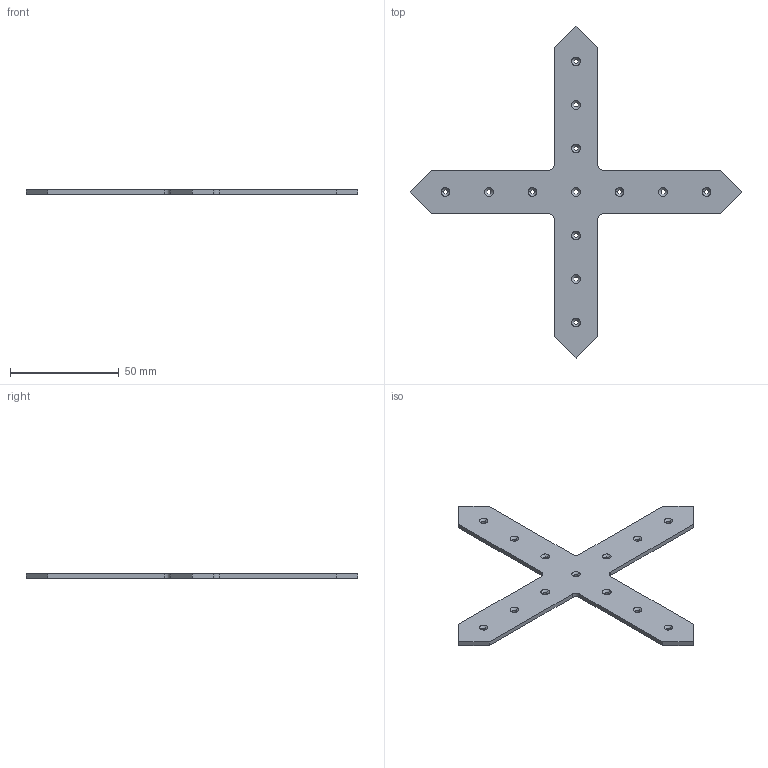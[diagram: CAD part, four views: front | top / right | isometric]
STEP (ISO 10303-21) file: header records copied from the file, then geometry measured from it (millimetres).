
FILE_DESCRIPTION (( 'STEP AP214' ), '1' );
FILE_NAME ('SC2.STEP', '2016-02-27T09:36:09', ( '' ), ( '' ), 'SwSTEP 2.0', 'SolidWorks 2012', '' );
FILE_SCHEMA (( 'AUTOMOTIVE_DESIGN' ));
Length unit declared in the file: millimetre
Products named in the file (1): SC2
Bounding box: 152.5 x 152.5 x 2 mm (x, y, z)
Volume: 10474.6 mm3; surface area: 11779.2 mm2
Topology: 1 solids, 1 shells, 74 faces, 190 edges, 118 vertices
Faces by surface type: cylinder 30, cone 26, plane 18
Entity records: 2338 total; most frequent: DIRECTION 426, CARTESIAN_POINT 383, ORIENTED_EDGE 380, EDGE_CURVE 190, AXIS2_PLACEMENT_3D 161, VERTEX_POINT 118, LINE 104, VECTOR 104
